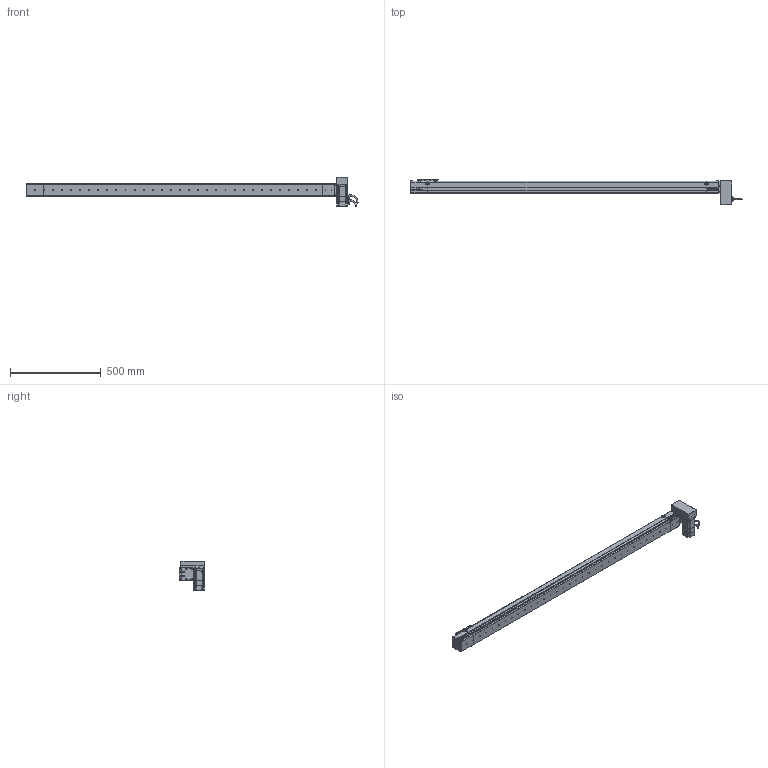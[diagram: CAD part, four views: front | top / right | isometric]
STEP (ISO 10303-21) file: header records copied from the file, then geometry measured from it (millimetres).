
FILE_DESCRIPTION (( 'STEP AP214' ), '1' );
FILE_NAME ('S07 CBN LU S1600.STEP', '2010-06-29T10:55:21', ( 'Conseil Régional Haute-Normandie' ), ( 'Conseil Régional Haute-Normandie' ), 'SwSTEP 2.0', 'SolidWorks 2010', '' );
FILE_SCHEMA (( 'AUTOMOTIVE_DESIGN' ));
Length unit declared in the file: millimetre
Products named in the file (31): chariot_Default; Chariot S07_Default; vis M5 L15_Default; plaque de serrage Tail_Default; Plaque de bout Tail_Default; Couvercle Tail_Default; Couvercle LU_Default; Rondelle de Serrage LU_Default; Corp Tail_Default; Couvercle S07 S1600_Default; 60BLDC90A-640_Default; Support Moteur LU_Default; Tail S07 Tail_Default; P1_Default; Corp S07 S1600_Default; VisM3_Default; Conecteur2 60BLDC_Default; P3 90A_Default; P2 90A_Default; Conecteur 60BLDC_Default; Axe 60BLDC_Default; P4_Default; support chariot_Default; vis M5 L8_Default; Corp LU_Default; Head LU_Default; S07 CBN LU S1600; Cache Support Moteur LU_Default; plaque de serrage LU_Default; Plaque de bout LU_Default
Assembly tree (71 placements, depth 4):
  S07 CBN LU S1600
    Chariot S07_Default
      vis M5 L8_Default  x8
      chariot_Default
      support chariot_Default
    Head LU_Default
      vis M5 L15_Default  x16
      Rondelle de Serrage LU_Default  x3
      Corp LU_Default
      Plaque de bout LU_Default
      60BLDC90A-640_Default
        VisM3_Default  x12
        Conecteur2 60BLDC_Default
        P1_Default
        P2 90A_Default
        Conecteur 60BLDC_Default
        P4_Default
        Axe 60BLDC_Default
        P3 90A_Default
      Support Moteur LU_Default
      Cache Support Moteur LU_Default
      plaque de serrage LU_Default
      Couvercle LU_Default
    Tail S07 Tail_Default
      vis M5 L15_Default  x6
      Corp Tail_Default
      Couvercle Tail_Default
      plaque de serrage Tail_Default
      Plaque de bout Tail_Default
    Corp S07 S1600_Default
      Couvercle S07 S1600_Default
      Corp S07 S1600_Default
Bounding box: 1825.7 x 142 x 162 mm (x, y, z)
Volume: 8894725.3 mm3; surface area: 1014706.8 mm2
Topology: 108 solids, 108 shells, 3946 faces, 9698 edges, 6244 vertices
Faces by surface type: plane 2268, bspline 756, cylinder 711, torus 112, cone 95, sphere 4
Entity records: 154793 total; most frequent: CARTESIAN_POINT 79825, ORIENTED_EDGE 14916, DIRECTION 11251, EDGE_CURVE 7458, VERTEX_POINT 4929, VECTOR 4809, LINE 4809, AXIS2_PLACEMENT_3D 3221
